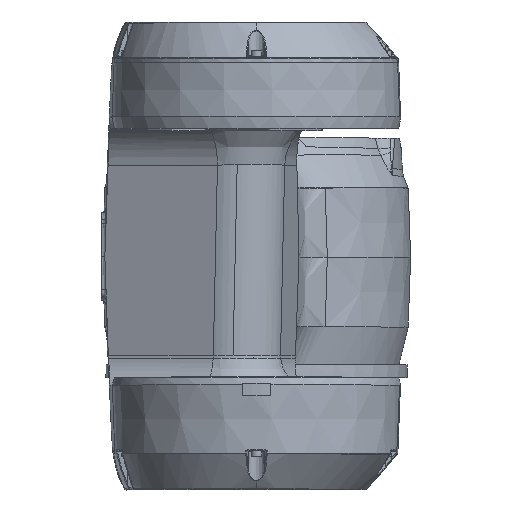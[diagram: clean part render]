
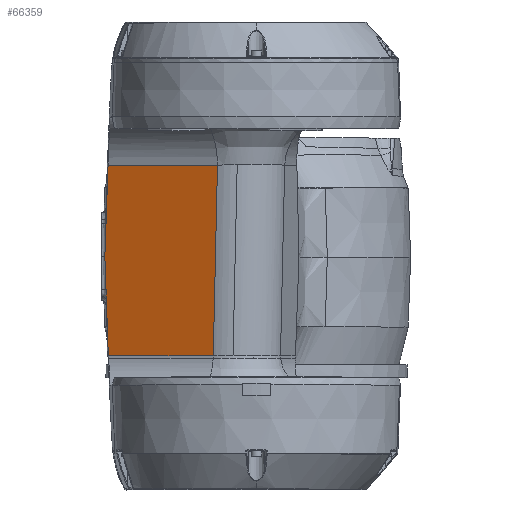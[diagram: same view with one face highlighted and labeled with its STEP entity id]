
A CAD part, top view. The second image highlights one B-rep face of the part: STEP entity #66359.
In plain terms, the highlighted planar face has unit normal (-0.397, -0.035, 0.917).
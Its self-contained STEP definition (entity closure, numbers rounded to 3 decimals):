
#941 = DIRECTION ( 'NONE',  ( -0.918, 0., -0.397 ) ) ;
#1425 = LINE ( 'NONE', #30953, #60362 ) ;
#1815 = ORIENTED_EDGE ( 'NONE', *, *, #19310, .F. ) ;
#2520 = LINE ( 'NONE', #60037, #6301 ) ;
#2634 = ORIENTED_EDGE ( 'NONE', *, *, #7419, .T. ) ;
#3242 = CARTESIAN_POINT ( 'NONE',  ( -75.66, 16.808, 672.86 ) ) ;
#3904 = LINE ( 'NONE', #33398, #67606 ) ;
#5863 = LINE ( 'NONE', #29265, #61964 ) ;
#6301 = VECTOR ( 'NONE', #43914, 1000. ) ;
#7419 = EDGE_CURVE ( 'NONE', #66414, #41960, #50452, .T. ) ;
#7501 = AXIS2_PLACEMENT_3D ( 'NONE', #14009, #44239, #27003 ) ;
#8049 = VERTEX_POINT ( 'NONE', #65107 ) ;
#8335 = DIRECTION ( 'NONE',  ( -0.035, 0.999, 0.023 ) ) ;
#8556 = EDGE_CURVE ( 'NONE', #32812, #73404, #2520, .T. ) ;
#9830 = DIRECTION ( 'NONE',  ( -0.035, -0.998, -0.053 ) ) ;
#11225 = EDGE_CURVE ( 'NONE', #73404, #57352, #43099, .T. ) ;
#14009 = CARTESIAN_POINT ( 'NONE',  ( 5., 0., 707.1 ) ) ;
#14508 = CARTESIAN_POINT ( 'NONE',  ( -74.34, -50., 670.889 ) ) ;
#15106 = DIRECTION ( 'NONE',  ( -0.035, 0.999, 0.023 ) ) ;
#15813 = LINE ( 'NONE', #39158, #28120 ) ;
#17162 = CARTESIAN_POINT ( 'NONE',  ( -74.634, 45.872, 674.409 ) ) ;
#19310 = EDGE_CURVE ( 'NONE', #70098, #54017, #15813, .T. ) ;
#19746 = CARTESIAN_POINT ( 'NONE',  ( 4.364, 45.872, 708.57 ) ) ;
#19753 = FACE_OUTER_BOUND ( 'NONE', #56030, .T. ) ;
#21341 = LINE ( 'NONE', #44323, #66825 ) ;
#24893 = EDGE_CURVE ( 'NONE', #8049, #41960, #1425, .T. ) ;
#27003 = DIRECTION ( 'NONE',  ( 0., -0.999, -0.038 ) ) ;
#28120 = VECTOR ( 'NONE', #62548, 1000. ) ;
#29038 = CARTESIAN_POINT ( 'NONE',  ( -76.253, 0., 671.964 ) ) ;
#29265 = CARTESIAN_POINT ( 'NONE',  ( -76.115, -3.962, 671.872 ) ) ;
#30953 = CARTESIAN_POINT ( 'NONE',  ( -76.115, -3.962, 671.872 ) ) ;
#32812 = VERTEX_POINT ( 'NONE', #45220 ) ;
#33398 = CARTESIAN_POINT ( 'NONE',  ( -76.581, -9.299, 671.468 ) ) ;
#38449 = EDGE_CURVE ( 'NONE', #32812, #70098, #51045, .T. ) ;
#39158 = CARTESIAN_POINT ( 'NONE',  ( 5.693, -50., 705.497 ) ) ;
#39321 = DIRECTION ( 'NONE',  ( -0.035, -0.998, -0.053 ) ) ;
#41115 = VECTOR ( 'NONE', #15106, 1000. ) ;
#41130 = EDGE_CURVE ( 'NONE', #48100, #8049, #56462, .T. ) ;
#41486 = ORIENTED_EDGE ( 'NONE', *, *, #8556, .T. ) ;
#41960 = VERTEX_POINT ( 'NONE', #29038 ) ;
#42390 = CARTESIAN_POINT ( 'NONE',  ( -74.515, -50., 670.813 ) ) ;
#43099 = LINE ( 'NONE', #19746, #57762 ) ;
#43914 = DIRECTION ( 'NONE',  ( 0.022, 0.999, 0.047 ) ) ;
#44239 = DIRECTION ( 'NONE',  ( 0.397, 0.035, -0.917 ) ) ;
#44323 = CARTESIAN_POINT ( 'NONE',  ( -76.581, -9.299, 671.468 ) ) ;
#44338 = ORIENTED_EDGE ( 'NONE', *, *, #38449, .F. ) ;
#45220 = CARTESIAN_POINT ( 'NONE',  ( -21.741, -50., 693.634 ) ) ;
#47836 = VECTOR ( 'NONE', #9830, 1000. ) ;
#48100 = VERTEX_POINT ( 'NONE', #60155 ) ;
#50452 = LINE ( 'NONE', #68105, #47836 ) ;
#50609 = EDGE_CURVE ( 'NONE', #57352, #69413, #21341, .T. ) ;
#51045 = LINE ( 'NONE', #74474, #55759 ) ;
#51776 = DIRECTION ( 'NONE',  ( -0.035, -0.998, -0.053 ) ) ;
#53478 = EDGE_CURVE ( 'NONE', #54017, #48100, #5863, .T. ) ;
#54017 = VERTEX_POINT ( 'NONE', #42390 ) ;
#54992 = PLANE ( 'NONE',  #7501 ) ;
#55407 = CARTESIAN_POINT ( 'NONE',  ( -75.57, 19.34, 672.995 ) ) ;
#55759 = VECTOR ( 'NONE', #56420, 1000. ) ;
#56030 = EDGE_LOOP ( 'NONE', ( #44338, #41486, #64487, #59889, #56780, #2634, #69692, #73312, #62174, #1815 ) ) ;
#56420 = DIRECTION ( 'NONE',  ( -0.918, 0., -0.397 ) ) ;
#56462 = LINE ( 'NONE', #61096, #41115 ) ;
#56780 = ORIENTED_EDGE ( 'NONE', *, *, #73930, .T. ) ;
#57352 = VERTEX_POINT ( 'NONE', #17162 ) ;
#57762 = VECTOR ( 'NONE', #941, 1000. ) ;
#59889 = ORIENTED_EDGE ( 'NONE', *, *, #50609, .T. ) ;
#60037 = CARTESIAN_POINT ( 'NONE',  ( -20.618, 1.088, 696.063 ) ) ;
#60155 = CARTESIAN_POINT ( 'NONE',  ( -75.489, -21.969, 671.458 ) ) ;
#60362 = VECTOR ( 'NONE', #8335, 1000. ) ;
#61096 = CARTESIAN_POINT ( 'NONE',  ( -76.115, -3.962, 671.872 ) ) ;
#61964 = VECTOR ( 'NONE', #70295, 1000. ) ;
#62174 = ORIENTED_EDGE ( 'NONE', *, *, #53478, .F. ) ;
#62548 = DIRECTION ( 'NONE',  ( -0.918, 0., -0.397 ) ) ;
#64086 = CARTESIAN_POINT ( 'NONE',  ( -19.634, 45.872, 698.193 ) ) ;
#64487 = ORIENTED_EDGE ( 'NONE', *, *, #11225, .T. ) ;
#65107 = CARTESIAN_POINT ( 'NONE',  ( -75.671, -16.752, 671.578 ) ) ;
#66359 = ADVANCED_FACE ( 'NONE', ( #19753 ), #54992, .F. ) ;
#66414 = VERTEX_POINT ( 'NONE', #3242 ) ;
#66825 = VECTOR ( 'NONE', #39321, 1000. ) ;
#67606 = VECTOR ( 'NONE', #51776, 1000. ) ;
#68105 = CARTESIAN_POINT ( 'NONE',  ( -76.581, -9.299, 671.468 ) ) ;
#69413 = VERTEX_POINT ( 'NONE', #55407 ) ;
#69692 = ORIENTED_EDGE ( 'NONE', *, *, #24893, .F. ) ;
#70098 = VERTEX_POINT ( 'NONE', #14508 ) ;
#70295 = DIRECTION ( 'NONE',  ( -0.035, 0.999, 0.023 ) ) ;
#73312 = ORIENTED_EDGE ( 'NONE', *, *, #41130, .F. ) ;
#73404 = VERTEX_POINT ( 'NONE', #64086 ) ;
#73930 = EDGE_CURVE ( 'NONE', #69413, #66414, #3904, .T. ) ;
#74474 = CARTESIAN_POINT ( 'NONE',  ( -75.024, -50., 670.593 ) ) ;
